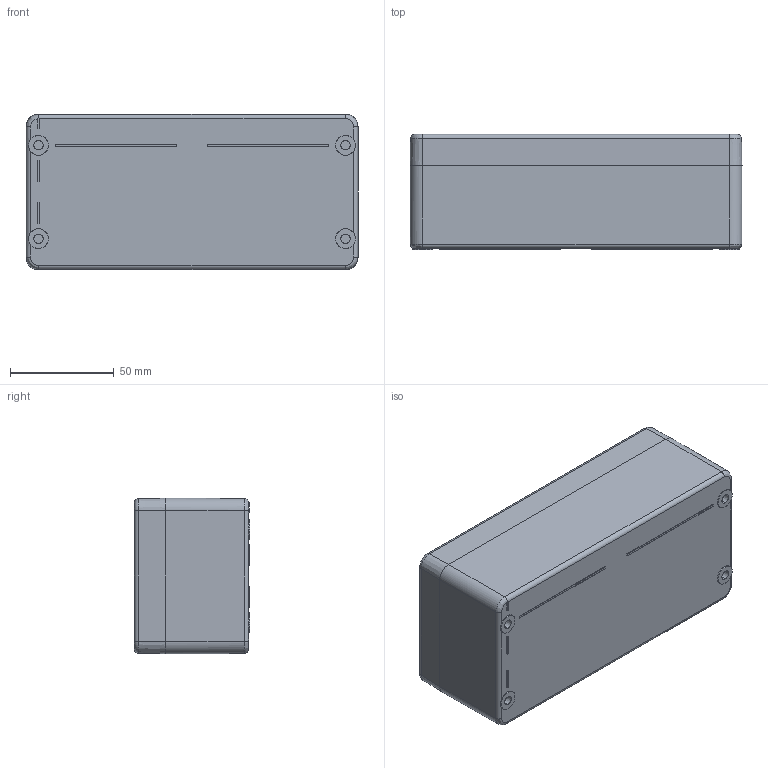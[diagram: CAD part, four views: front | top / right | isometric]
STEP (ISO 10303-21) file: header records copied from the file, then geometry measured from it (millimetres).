
FILE_DESCRIPTION((''),'2;1');
FILE_NAME('5174000000_ASM','2023-12-13T11:37:44',('silke.otte'),(''),'CREO PARAMETRIC BY PTC INC, 2022124','CREO PARAMETRIC BY PTC INC, 2022124','');
FILE_SCHEMA(('AUTOMOTIVE_DESIGN { 1 0 10303 214 1 1 1 1 }'));
Length unit declared in the file: millimetre
Products named in the file (14): 9331003000; EINPRESSMUTTER_M4; EINPRESSMUTTER_M4_AF8; EINPRESSMUTTER_M4_AF9; EINPRESSMUTTER_M4_AF10; EINPRESSMUTTER_M4_AF11; 9341003000_ASM; 9342003000; CP-DICHTUNG_35; 9614004700_ASM; 9262004000; 9261014000; 9258857000; 5174000000_ASM
Assembly tree (21 placements, depth 3):
  5174000000_ASM
    9341003000_ASM
      9331003000
      EINPRESSMUTTER_M4  x2
      EINPRESSMUTTER_M4_AF8
      EINPRESSMUTTER_M4_AF9
      EINPRESSMUTTER_M4_AF10
      EINPRESSMUTTER_M4_AF11
    9614004700_ASM
      9342003000
      CP-DICHTUNG_35
    9262004000  x4
    9261014000  x4
    9258857000  x2
Bounding box: 160 x 55.5 x 75 mm (x, y, z)
Volume: 205682.7 mm3; surface area: 111887.1 mm2
Topology: 19 solids, 29 shells, 713 faces, 3981 edges, 5452 vertices
Faces by surface type: plane 303, cone 184, cylinder 178, bspline 24, torus 24
Entity records: 32748 total; most frequent: CARTESIAN_POINT 7322, DIRECTION 3881, ORIENTED_EDGE 2374, AXIS2_PLACEMENT_3D 1351, EDGE_CURVE 1198, PRESENTATION_STYLE_ASSIGNMENT 1158, STYLED_ITEM 1147, VECTOR 1136
